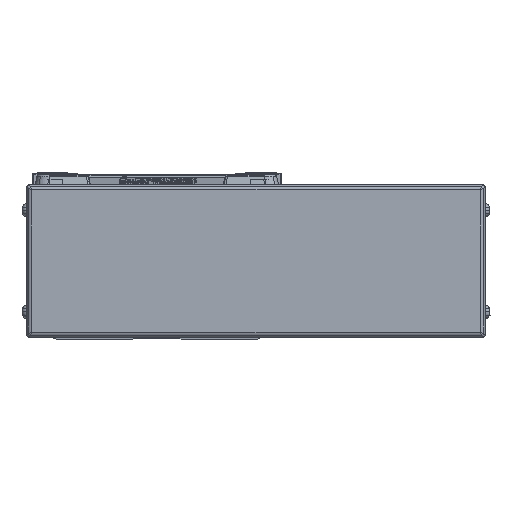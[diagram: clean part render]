
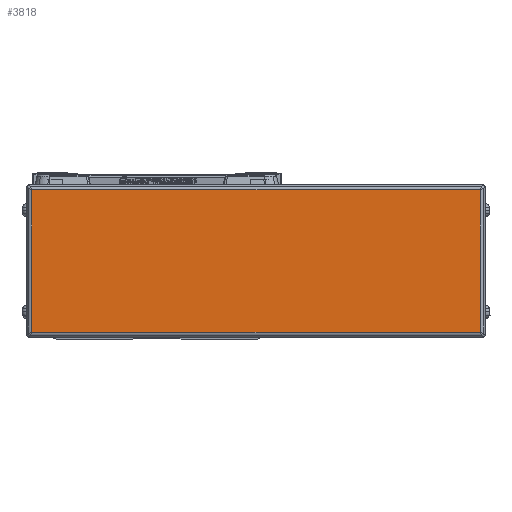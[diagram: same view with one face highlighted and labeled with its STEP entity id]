
A CAD part, left-side view. The second image highlights one B-rep face of the part: STEP entity #3818.
In plain terms, the highlighted planar face has unit normal (-1, 0, 0).
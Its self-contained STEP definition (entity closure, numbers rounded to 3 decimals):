
#3818=ADVANCED_FACE('',(#8644),#8645,.T.);
#8644=FACE_OUTER_BOUND('',#14927,.T.);
#8645=PLANE('',#14928);
#14927=EDGE_LOOP('',(#26325,#26326,#26327,#26328));
#14928=AXIS2_PLACEMENT_3D('',#26329,#26330,#26331);
#26325=ORIENTED_EDGE('',*,*,#38577,.F.);
#26326=ORIENTED_EDGE('',*,*,#35874,.F.);
#26327=ORIENTED_EDGE('',*,*,#39919,.F.);
#26328=ORIENTED_EDGE('',*,*,#39920,.F.);
#26329=CARTESIAN_POINT('',(-616.,-39.,0.));
#26330=DIRECTION('',(-1.0,0.,0.));
#26331=DIRECTION('',(0.,0.,1.0));
#35874=EDGE_CURVE('',#42706,#42708,#42709,.T.);
#38577=EDGE_CURVE('',#42708,#45529,#47248,.T.);
#39919=EDGE_CURVE('',#43391,#42706,#49281,.T.);
#39920=EDGE_CURVE('',#45529,#43391,#49282,.T.);
#42706=VERTEX_POINT('',#52650);
#42708=VERTEX_POINT('',#52652);
#42709=LINE('',#52653,#52654);
#43391=VERTEX_POINT('',#53547);
#45529=VERTEX_POINT('',#56401);
#47248=LINE('',#58760,#58761);
#49281=LINE('',#61730,#61731);
#49282=LINE('',#61732,#61733);
#52650=CARTESIAN_POINT('',(-616.0,49.2,-28.));
#52652=CARTESIAN_POINT('',(-616.,49.2,28.));
#52653=CARTESIAN_POINT('',(-616.,49.2,0.));
#52654=VECTOR('',#65943,10.0);
#53547=CARTESIAN_POINT('',(-616.,-127.2,-28.));
#56401=CARTESIAN_POINT('',(-616.,-127.2,28.));
#58760=CARTESIAN_POINT('',(-616.,-39.,28.));
#58761=VECTOR('',#69716,10.0);
#61730=CARTESIAN_POINT('',(-616.,-39.,-28.));
#61731=VECTOR('',#71562,10.0);
#61732=CARTESIAN_POINT('',(-616.,-127.2,0.));
#61733=VECTOR('',#71563,10.0);
#65943=DIRECTION('',(0.,0.,1.0));
#69716=DIRECTION('',(0.,-1.0,0.));
#71562=DIRECTION('',(0.,1.0,0.));
#71563=DIRECTION('',(0.,0.,-1.0));
